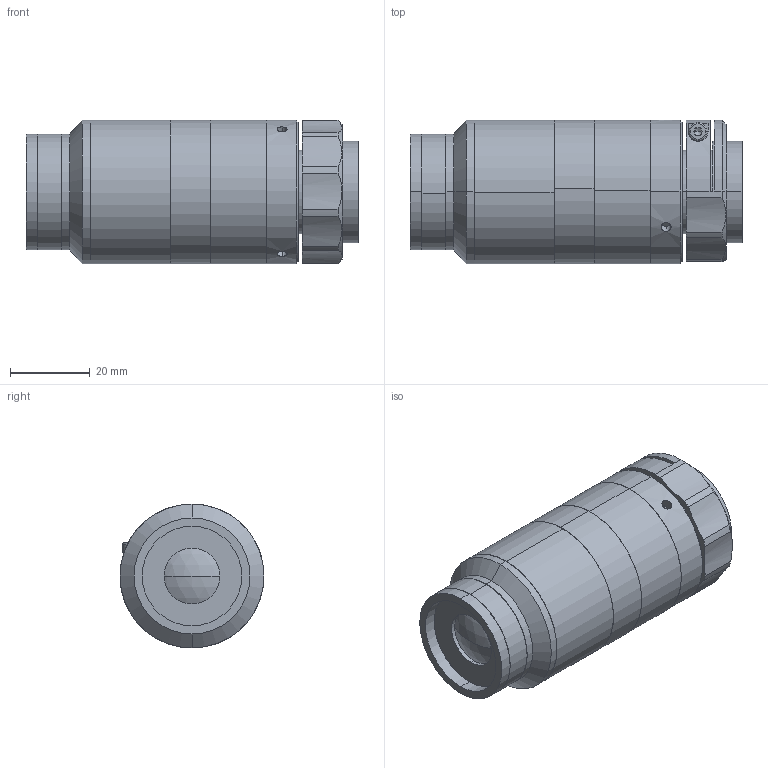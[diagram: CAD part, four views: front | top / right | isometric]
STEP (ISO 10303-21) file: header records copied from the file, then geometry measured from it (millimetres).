
FILE_DESCRIPTION (( 'STEP AP203' ), '1' );
FILE_NAME ('XF-MH095X70.STEP', '2020-08-24T07:06:17', ( 'canrill-02' ), ( '' ), 'SwSTEP 2.0', 'SolidWorks 2014', '' );
FILE_SCHEMA (( 'CONFIG_CONTROL_DESIGN' ));
Length unit declared in the file: millimetre
Products named in the file (1): XF-MH095X70
Bounding box: 83.02 x 36 x 36 mm (x, y, z)
Surface area: 15868.8 mm2 (no closed solid volume)
Topology: 0 solids, 13 shells, 106 faces, 282 edges, 192 vertices
Faces by surface type: cylinder 51, plane 36, cone 15, sphere 2, torus 2
Entity records: 3687 total; most frequent: CARTESIAN_POINT 900, DIRECTION 625, ORIENTED_EDGE 475, EDGE_CURVE 280, AXIS2_PLACEMENT_3D 261, VERTEX_POINT 192, CIRCLE 154, EDGE_LOOP 133
